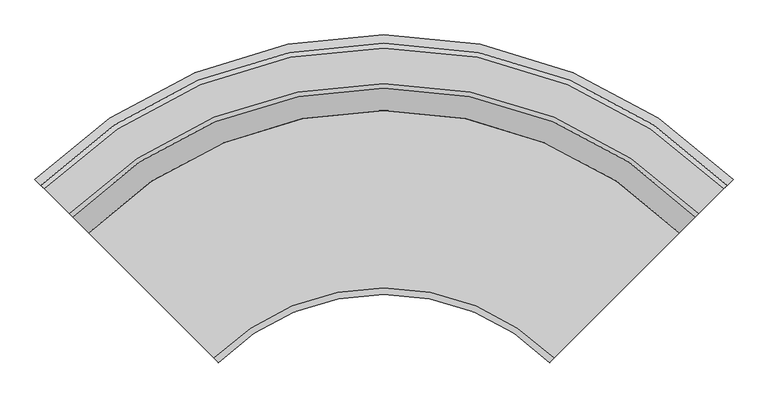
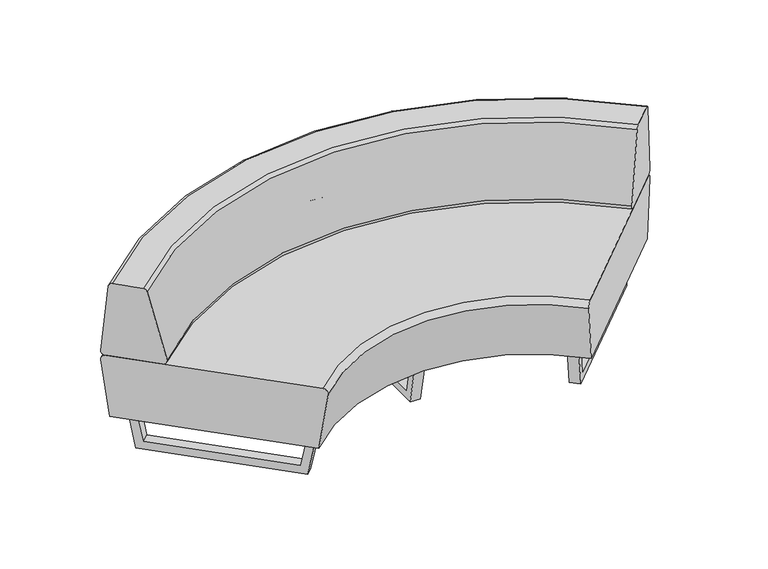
"""IFC4 building model written with IfcOpenShell, lengths in millimetres: furniture geometry, Furniture-Sofa-LyndonDesign-Us_US_11 : Furniture-Sofa-LyndonDesign-Us_US_11."""

from ifc_helpers import new_model, si_unit, point, frame, origin, place, context, project, spatial, polyline, circle_curve, ellipse_curve, trimmed, outline, extrude, source, transform, mapped, element, save
from ifc_brep_helpers import plane_surface, revolved_surface, advanced_brep


def furniture_880f4501(model_context):
    return source(origin(), model_context, "Body", "SolidModel", [
        extrude(outline(polyline([(48.4983363, 0.0), (19.6427161, 150.0008635), (677.3574106, 150.0008635), (648.5017904, 0.0), (48.4983363, 0.0)]), holes=[polyline([(622.0566513, 31.992539), (639.7420108, 124.0047668), (57.2581159, 124.0047668), (74.9296587, 31.992539), (622.0566513, 31.992539)])]), frame((-20.0, 0.0, 0.0), z_axis=(1.0, 0.0, 0.0), x_axis=(0.0, 1.0, 0.0)), (0.0, 0.0, 1.0), 40.0),
        extrude(outline(polyline([(-144.0066093, 0.0), (8.7445146, 0.0), (-115.5018078, -645.8726428), (-257.350926, -589.2004844), (-144.0066093, 0.0)]), holes=[polyline([(-220.9387595, -569.2750719), (-133.9240701, -604.023681), (-23.8893051, -32.0273188), (-117.5831293, -31.9990165), (-220.9387595, -569.2750719)])]), frame((-513.0139296, -166.5194295, 141.4137925), z_axis=(0.7071067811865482, 0.7071067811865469, 0.0), x_axis=(0.13357678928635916, -0.13357678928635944, 0.9819951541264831)), (0.0, 0.0, 1.0), 40.0),
        extrude(outline(polyline([(-789.9948218, 0.0), (-189.9913677, 0.0), (-161.1357475, -150.0008635), (-818.850442, -150.0008635), (-789.9948218, 0.0)]), holes=[polyline([(-216.4365068, -31.992539), (-763.5634994, -31.992539), (-781.2350422, -124.0047668), (-198.7511473, -124.0047668), (-216.4365068, -31.992539)])]), frame((1090.8605657, 411.3272066, 0.0), z_axis=(-0.7071067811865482, 0.7071067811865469, 0.0), x_axis=(0.7071067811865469, 0.7071067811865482, 0.0)), (0.0, 0.0, 1.0), 40.0),
        advanced_brep(
        [(1058.2279921, 307.983169, 400.0), (1069.6969136, 319.4528669, 416.4948981), (1051.327811, 301.0825208, 685.8398745), (1041.042661, 290.7966746, 699.1667853), (964.2901922, 214.0390102, 698.9837746), (954.5313499, 204.2795074, 688.2685098), (905.3220484, 155.0668748, 418.8659125), (916.6392613, 166.3848538, 400.0), (-1058.2279921, 307.983169, 400.0), (-916.6392613, 166.3848538, 400.0), (-905.3220484, 155.0668748, 418.8659125), (-954.5313499, 204.2795074, 688.2685098), (-964.2901922, 214.0390102, 698.9837746), (-1041.042661, 290.7966746, 699.1667853), (-1051.327811, 301.0825208, 685.8398745), (-1069.6969136, 319.4528669, 416.4948981)],
        [
            (0, 1, circle_curve(frame((1058.2279921, 307.983169, 416.2223431), z_axis=(0.7071307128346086, -0.7070828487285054, 0.0), x_axis=(0.7070828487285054, 0.7071307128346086, 0.0)), 16.2223431)),
            (1, 2, circle_curve(frame((-136.99541, -887.3211405, 387.8182679), z_axis=(0.7071307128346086, -0.7070828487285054, 0.0), x_axis=(0.7070828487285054, 0.7071307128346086, 0.0)), 1706.8193278)),
            (2, 3, circle_curve(frame((1040.0334773, 289.7874226, 683.0073493), z_axis=(0.7071307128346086, -0.7070828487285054, 0.0), x_axis=(0.7070828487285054, 0.7071307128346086, 0.0)), 16.2223431)),
            (3, 4, circle_curve(frame((1003.3851578, 253.1366223, 96.1803965), z_axis=(0.7071307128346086, -0.7070828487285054, 0.0), x_axis=(0.7070828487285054, 0.7071307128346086, 0.0)), 605.3337527)),
            (4, 5, circle_curve(frame((965.3378984, 215.0867874, 682.829243), z_axis=(0.7071307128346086, -0.7070828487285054, 0.0), x_axis=(0.7070828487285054, 0.7071307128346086, 0.0)), 16.2223431)),
            (5, 6, circle_curve(frame((1995.8859238, 1245.704573, 164.1228604), z_axis=(0.7071307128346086, -0.7070828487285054, 0.0), x_axis=(0.7070828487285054, 0.7071307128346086, 0.0)), 1563.2383624)),
            (6, 7, circle_curve(frame((916.6392613, 166.3848538, 416.2223431), z_axis=(0.7071307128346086, -0.7070828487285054, 0.0), x_axis=(0.7070828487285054, 0.7071307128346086, 0.0)), 16.2223431)),
            (7, 0),
            (8, 9),
            (9, 10, circle_curve(frame((-916.6392613, 166.3848538, 416.2223431), z_axis=(-0.7071307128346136, -0.7070828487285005, 0.0), x_axis=(-0.7070828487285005, 0.7071307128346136, 0.0)), 16.2223431)),
            (10, 11, circle_curve(frame((-1995.8859238, 1245.704573, 164.1228604), z_axis=(-0.7071307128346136, -0.7070828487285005, 0.0), x_axis=(-0.7070828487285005, 0.7071307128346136, 0.0)), 1563.2383624)),
            (11, 12, circle_curve(frame((-965.3378984, 215.0867874, 682.829243), z_axis=(-0.7071307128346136, -0.7070828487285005, 0.0), x_axis=(-0.7070828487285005, 0.7071307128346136, 0.0)), 16.2223431)),
            (12, 13, circle_curve(frame((-1003.3851578, 253.1366223, 96.1803965), z_axis=(-0.7071307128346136, -0.7070828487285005, 0.0), x_axis=(-0.7070828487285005, 0.7071307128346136, 0.0)), 605.3337527)),
            (13, 14, circle_curve(frame((-1040.0334773, 289.7874226, 683.0073493), z_axis=(-0.7071307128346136, -0.7070828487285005, 0.0), x_axis=(-0.7070828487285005, 0.7071307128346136, 0.0)), 16.2223431)),
            (14, 15, circle_curve(frame((136.99541, -887.3211405, 387.8182679), z_axis=(-0.7071307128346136, -0.7070828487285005, 0.0), x_axis=(-0.7070828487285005, 0.7071307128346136, 0.0)), 1706.8193278)),
            (15, 8, circle_curve(frame((-1058.2279921, 307.983169, 416.2223431), z_axis=(-0.7071307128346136, -0.7070828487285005, 0.0), x_axis=(-0.7070828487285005, 0.7071307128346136, 0.0)), 16.2223431)),
            (15, 1, circle_curve(frame((0.0, -750.316457, 416.4948981), z_axis=(0.0, 0.0, -1.0), x_axis=(0.7070828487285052, 0.7071307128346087, 0.0)), 1512.8310855)),
            (0, 8, circle_curve(frame((0.0, -750.316457, 400.0), z_axis=(0.0, 0.0, 1.0), x_axis=(0.7070828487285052, 0.7071307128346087, 0.0)), 1496.6110322)),
            (14, 2, circle_curve(frame((0.0, -750.316457, 685.8398745), z_axis=(0.0, 0.0, -1.0), x_axis=(0.7070828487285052, 0.7071307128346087, 0.0)), 1486.8523722)),
            (13, 3, circle_curve(frame((0.0, -750.316457, 699.1667853), z_axis=(0.0, 0.0, -1.0), x_axis=(0.7070828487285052, 0.7071307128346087, 0.0)), 1472.3064813)),
            (12, 4, circle_curve(frame((0.0, -750.316457, 698.9837746), z_axis=(0.0, 0.0, -1.0), x_axis=(0.7070828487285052, 0.7071307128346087, 0.0)), 1363.758425)),
            (11, 5, circle_curve(frame((0.0, -750.316457, 688.2685098), z_axis=(0.0, 0.0, -1.0), x_axis=(0.7070828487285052, 0.7071307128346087, 0.0)), 1349.9568708)),
            (10, 6, circle_curve(frame((0.0, -750.316457, 418.8659125), z_axis=(0.0, 0.0, -1.0), x_axis=(0.7070828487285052, 0.7071307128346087, 0.0)), 1280.3620538)),
            (9, 7, circle_curve(frame((0.0, -750.316457, 400.0), z_axis=(0.0, 0.0, -1.0), x_axis=(0.7070828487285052, 0.7071307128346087, 0.0)), 1296.3675514)),
        ],
        [
            plane_surface(frame((1069.8365245, 319.5924873, 400.0), z_axis=(0.7071307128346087, -0.7070828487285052, 0.0), x_axis=(0.0, 0.0, 1.0))),
            plane_surface(frame((-1069.8365245, 319.5924873, 400.0), z_axis=(-0.7071307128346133, -0.7070828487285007, 0.0), x_axis=(0.0, 0.0, 1.0))),
            revolved_surface(trimmed(ellipse_curve(frame((1058.2279921, 307.983169, 416.2223431), z_axis=(0.7071307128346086, -0.7070828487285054, 0.0), x_axis=(0.7070828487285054, 0.7071307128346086, 0.0)), 16.2223431, 16.2223431), [point((1058.2279921, 307.983169, 400.0))], [point((1069.6969136, 319.4528669, 416.4948981))], True, "CARTESIAN"), (0.0, -750.316457, 400.0), (0.0, 0.0, 1.0)),
            revolved_surface(trimmed(ellipse_curve(frame((-136.99541, -887.3211405, 387.8182679), z_axis=(0.7071307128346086, -0.7070828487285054, 0.0), x_axis=(0.7070828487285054, 0.7071307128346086, 0.0)), 1706.8193278, 1706.8193278), [point((1069.6969136, 319.4528669, 416.4948981))], [point((1051.327811, 301.0825208, 685.8398745))], True, "CARTESIAN"), (0.0, -750.316457, 400.0), (0.0, 0.0, 1.0)),
            revolved_surface(trimmed(ellipse_curve(frame((1040.0334773, 289.7874226, 683.0073493), z_axis=(0.7071307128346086, -0.7070828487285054, 0.0), x_axis=(0.7070828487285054, 0.7071307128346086, 0.0)), 16.2223431, 16.2223431), [point((1051.327811, 301.0825208, 685.8398745))], [point((1041.042661, 290.7966746, 699.1667853))], True, "CARTESIAN"), (0.0, -750.316457, 400.0), (0.0, 0.0, 1.0)),
            revolved_surface(trimmed(ellipse_curve(frame((1003.3851578, 253.1366223, 96.1803965), z_axis=(0.7071307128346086, -0.7070828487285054, 0.0), x_axis=(0.7070828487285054, 0.7071307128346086, 0.0)), 605.3337527, 605.3337527), [point((1041.042661, 290.7966746, 699.1667853))], [point((964.2901922, 214.0390102, 698.9837746))], True, "CARTESIAN"), (0.0, -750.316457, 400.0), (0.0, 0.0, 1.0)),
            revolved_surface(trimmed(ellipse_curve(frame((965.3378984, 215.0867874, 682.829243), z_axis=(0.7071307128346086, -0.7070828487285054, 0.0), x_axis=(0.7070828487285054, 0.7071307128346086, 0.0)), 16.2223431, 16.2223431), [point((964.2901922, 214.0390102, 698.9837746))], [point((954.5313499, 204.2795074, 688.2685098))], True, "CARTESIAN"), (0.0, -750.316457, 400.0), (0.0, 0.0, 1.0)),
            revolved_surface(trimmed(ellipse_curve(frame((1995.8859238, 1245.704573, 164.1228604), z_axis=(0.7071307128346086, -0.7070828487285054, 0.0), x_axis=(0.7070828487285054, 0.7071307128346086, 0.0)), 1563.2383624, 1563.2383624), [point((954.5313499, 204.2795074, 688.2685098))], [point((905.3220484, 155.0668748, 418.8659125))], True, "CARTESIAN"), (0.0, -750.316457, 400.0), (0.0, 0.0, 1.0)),
            revolved_surface(trimmed(ellipse_curve(frame((916.6392613, 166.3848538, 416.2223431), z_axis=(0.7071307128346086, -0.7070828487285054, 0.0), x_axis=(0.7070828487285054, 0.7071307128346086, 0.0)), 16.2223431, 16.2223431), [point((905.3220484, 155.0668748, 418.8659125))], [point((916.6392613, 166.3848538, 400.0))], True, "CARTESIAN"), (0.0, -750.316457, 400.0), (0.0, 0.0, 1.0)),
            plane_surface(frame((0.0, -750.316457, 400.0), z_axis=(0.0, 0.0, -1.0), x_axis=(0.7070828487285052, 0.7071307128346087, 0.0))),
        ],
        [
            (0, [[1, 2, 3, 4, 5, 6, 7, 8]]),
            (1, [[9, 10, 11, 12, 13, 14, 15, 16]]),
            (2, [[17, -1, 18, -16]]),
            (3, [[19, -2, -17, -15]]),
            (4, [[20, -3, -19, -14]]),
            (5, [[21, -4, -20, -13]]),
            (6, [[22, -5, -21, -12]]),
            (7, [[23, -6, -22, -11]]),
            (8, [[24, -7, -23, -10]]),
            (9, [[-18, -8, -24, -9]]),
        ],
    ),
        advanced_brep(
        [(1055.6943889, 305.4503517, 400.0), (521.3381445, -228.9058927, 400.0), (507.2746732, -242.969364, 377.8934504), (530.5026463, -219.741391, 150.0008635), (1046.5180362, 296.2739989, 150.0008635), (1069.758874, 319.5148367, 377.9070309), (-1055.6943889, 305.4503517, 400.0), (-1069.758874, 319.5148367, 377.9070309), (-1046.5180362, 296.2739989, 150.0008635), (-530.5026463, -219.741391, 150.0008635), (-507.2746732, -242.969364, 377.8934504), (-521.3381445, -228.9058927, 400.0)],
        [
            (0, 1),
            (1, 2, circle_curve(frame((521.3381445, -228.9058927, 380.0), z_axis=(0.7071067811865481, -0.7071067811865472, 0.0), x_axis=(-0.7071067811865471, -0.707106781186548, 0.0)), 20.0)),
            (2, 3, circle_curve(frame((2658.7856996, 1908.5416624, 700.1655651), z_axis=(0.7071067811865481, -0.7071067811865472, 0.0), x_axis=(-0.7071067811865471, -0.707106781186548, 0.0)), 3059.7154621)),
            (3, 4),
            (4, 5, circle_curve(frame((-1039.8904621, -1790.1344993, 691.8489037), z_axis=(0.7071067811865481, -0.7071067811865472, 0.0), x_axis=(-0.7071067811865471, -0.707106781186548, 0.0)), 2999.9666901)),
            (5, 0, circle_curve(frame((1055.6943889, 305.4503517, 380.0), z_axis=(0.7071067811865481, -0.7071067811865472, 0.0), x_axis=(-0.7071067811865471, -0.707106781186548, 0.0)), 20.0)),
            (6, 7, circle_curve(frame((-1055.6943889, 305.4503517, 380.0), z_axis=(-0.7071067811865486, -0.7071067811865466, 0.0), x_axis=(0.7071067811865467, -0.7071067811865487, 0.0)), 20.0)),
            (7, 8, circle_curve(frame((1039.8904621, -1790.1344993, 691.8489037), z_axis=(-0.7071067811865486, -0.7071067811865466, 0.0), x_axis=(0.7071067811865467, -0.7071067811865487, 0.0)), 2999.9666901)),
            (8, 9),
            (9, 10, circle_curve(frame((-2658.7856996, 1908.5416624, 700.1655651), z_axis=(-0.7071067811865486, -0.7071067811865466, 0.0), x_axis=(0.7071067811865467, -0.7071067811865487, 0.0)), 3059.7154621)),
            (10, 11, circle_curve(frame((-521.3381445, -228.9058927, 380.0), z_axis=(-0.7071067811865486, -0.7071067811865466, 0.0), x_axis=(0.7071067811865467, -0.7071067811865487, 0.0)), 20.0)),
            (11, 6),
            (11, 1, circle_curve(frame((0.0, -750.2440372, 400.0), z_axis=(0.0, 0.0, -1.0), x_axis=(0.7071067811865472, 0.7071067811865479, 0.0)), 737.2834746)),
            (0, 6, circle_curve(frame((0.0, -750.2440372, 400.0), z_axis=(0.0, 0.0, 1.0), x_axis=(0.7071067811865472, 0.7071067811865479, 0.0)), 1492.9773225)),
            (10, 2, circle_curve(frame((0.0, -750.2440372, 377.8934504), z_axis=(0.0, 0.0, -1.0), x_axis=(0.7071067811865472, 0.7071067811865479, 0.0)), 717.3947227)),
            (9, 3, circle_curve(frame((0.0, -750.2440372, 150.0008635), z_axis=(0.0, 0.0, -1.0), x_axis=(0.7071067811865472, 0.7071067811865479, 0.0)), 750.2440372)),
            (8, 4, circle_curve(frame((0.0, -750.2440372, 150.0008635), z_axis=(0.0, 0.0, -1.0), x_axis=(0.7071067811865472, 0.7071067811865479, 0.0)), 1480.0)),
            (7, 5, circle_curve(frame((0.0, -750.2440372, 377.9070309), z_axis=(0.0, 0.0, -1.0), x_axis=(0.7071067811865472, 0.7071067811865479, 0.0)), 1512.867508)),
        ],
        [
            plane_surface(frame((1046.5180362, 296.2739989, 150.0008635), z_axis=(0.7071067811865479, -0.7071067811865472, 0.0), x_axis=(0.0, 0.0, 1.0))),
            plane_surface(frame((-1046.5180362, 296.2739989, 150.0008635), z_axis=(-0.7071067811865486, -0.7071067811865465, 0.0), x_axis=(0.0, 0.0, 1.0))),
            plane_surface(frame((0.0, -750.2440372, 400.0), z_axis=(0.0, 0.0, 1.0000000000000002), x_axis=(0.7071067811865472, 0.7071067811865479, 0.0))),
            revolved_surface(trimmed(ellipse_curve(frame((521.3381445, -228.9058927, 380.0), z_axis=(0.7071067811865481, -0.7071067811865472, 0.0), x_axis=(-0.7071067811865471, -0.707106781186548, 0.0)), 20.0, 20.0), [point((521.3381445, -228.9058927, 400.0))], [point((507.2746732, -242.969364, 377.8934504))], True, "CARTESIAN"), (0.0, -750.2440372, 150.0008635), (0.0, 0.0, 1.0000000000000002)),
            revolved_surface(trimmed(ellipse_curve(frame((2658.7856996, 1908.5416624, 700.1655651), z_axis=(0.7071067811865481, -0.7071067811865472, 0.0), x_axis=(-0.7071067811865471, -0.707106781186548, 0.0)), 3059.7154621, 3059.7154621), [point((507.2746732, -242.969364, 377.8934504))], [point((530.5026463, -219.741391, 150.0008635))], True, "CARTESIAN"), (0.0, -750.2440372, 150.0008635), (0.0, 0.0, 1.0000000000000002)),
            plane_surface(frame((0.0, -750.2440372, 150.0008635), z_axis=(0.0, 0.0, -1.0000000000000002), x_axis=(0.7071067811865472, 0.7071067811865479, 0.0))),
            revolved_surface(trimmed(ellipse_curve(frame((-1039.8904621, -1790.1344993, 691.8489037), z_axis=(0.7071067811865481, -0.7071067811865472, 0.0), x_axis=(-0.7071067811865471, -0.707106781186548, 0.0)), 2999.9666901, 2999.9666901), [point((1046.5180362, 296.2739989, 150.0008635))], [point((1069.758874, 319.5148367, 377.9070309))], True, "CARTESIAN"), (0.0, -750.2440372, 150.0008635), (0.0, 0.0, 1.0000000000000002)),
            revolved_surface(trimmed(ellipse_curve(frame((1055.6943889, 305.4503517, 380.0), z_axis=(0.7071067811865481, -0.7071067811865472, 0.0), x_axis=(-0.7071067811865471, -0.707106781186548, 0.0)), 20.0, 20.0), [point((1069.758874, 319.5148367, 377.9070309))], [point((1055.6943889, 305.4503517, 400.0))], True, "CARTESIAN"), (0.0, -750.2440372, 150.0008635), (0.0, 0.0, 1.0000000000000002)),
        ],
        [
            (0, [[1, 2, 3, 4, 5, 6]]),
            (1, [[7, 8, 9, 10, 11, 12]]),
            (2, [[13, -1, 14, -12]]),
            (3, [[15, -2, -13, -11]]),
            (4, [[16, -3, -15, -10]]),
            (5, [[17, -4, -16, -9]]),
            (6, [[18, -5, -17, -8]]),
            (7, [[-14, -6, -18, -7]]),
        ],
    ),
    ])


if __name__ == "__main__":
    model = new_model("IFC4")
    model_context = context("Model", 3, world=origin())
    ifc_project = project(units=[si_unit("LENGTHUNIT", "METRE", prefix="MILLI")], contexts=[model_context])
    site = spatial("IfcSite", under=ifc_project)
    building = spatial("IfcBuilding", under=site)
    placement = place(None, origin())
    furniture_shape = furniture_880f4501(model_context)
    element("IfcFurniture", 1, ObjectType="Furniture-Sofa-LyndonDesign-Us_US_11 : Furniture-Sofa-LyndonDesign-Us_US_11", at=placement, inside=building, context=model_context, shape_type="MappedRepresentation", body=[
        mapped(furniture_shape, transform((0.0, 0.0, 0.0), x_axis=(1.0, 0.0, 0.0), y_axis=(0.0, 1.0, 0.0), z_axis=(0.0, 0.0, 1.0))),
    ])
    save(model, "model.ifc")
